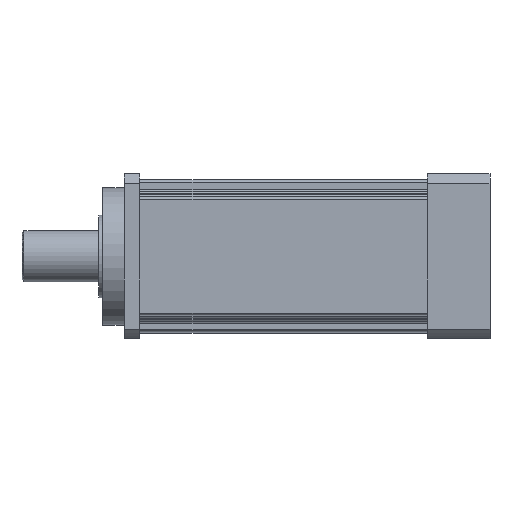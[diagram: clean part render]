
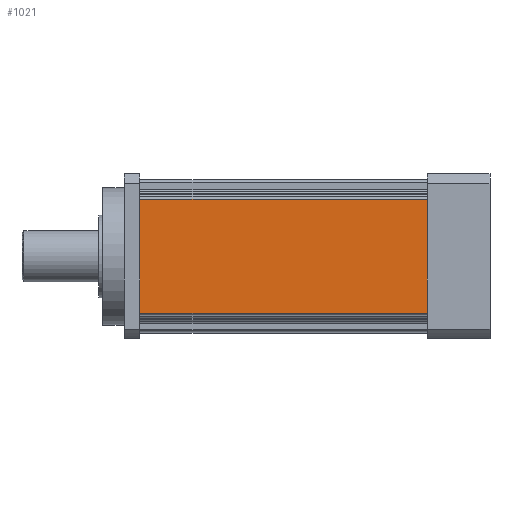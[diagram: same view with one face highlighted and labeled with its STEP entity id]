
A CAD part, left-side view. The second image highlights one B-rep face of the part: STEP entity #1021.
In plain terms, the highlighted planar face has unit normal (-1, 0, 0).
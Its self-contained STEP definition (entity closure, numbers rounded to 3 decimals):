
#872 = EDGE_CURVE ( 'NONE', #4538, #6728, #19448, .T. ) ;
#1021 = ADVANCED_FACE ( 'NONE', ( #12493 ), #18200, .F. ) ;
#2905 = LINE ( 'NONE', #16400, #21190 ) ;
#3799 = LINE ( 'NONE', #15146, #9985 ) ;
#4074 = ORIENTED_EDGE ( 'NONE', *, *, #872, .F. ) ;
#4287 = VECTOR ( 'NONE', #7844, 1000. ) ;
#4538 = VERTEX_POINT ( 'NONE', #17317 ) ;
#4695 = CARTESIAN_POINT ( 'NONE',  ( -83.365, 63.871, -14.5 ) ) ;
#5209 = DIRECTION ( 'NONE',  ( 0., 0., -1. ) ) ;
#5758 = CARTESIAN_POINT ( 'NONE',  ( -83.365, 63.871, 0. ) ) ;
#6566 = EDGE_CURVE ( 'NONE', #13915, #6728, #6987, .T. ) ;
#6728 = VERTEX_POINT ( 'NONE', #15299 ) ;
#6987 = LINE ( 'NONE', #5758, #14443 ) ;
#7844 = DIRECTION ( 'NONE',  ( 0., 1., 0. ) ) ;
#8728 = DIRECTION ( 'NONE',  ( 0., 0., -1. ) ) ;
#9985 = VECTOR ( 'NONE', #14926, 1000. ) ;
#10509 = CARTESIAN_POINT ( 'NONE',  ( -83.365, -9.129, 14.5 ) ) ;
#11003 = AXIS2_PLACEMENT_3D ( 'NONE', #13340, #19944, #5209 ) ;
#11977 = EDGE_CURVE ( 'NONE', #13915, #14997, #3799, .T. ) ;
#12493 = FACE_OUTER_BOUND ( 'NONE', #13076, .T. ) ;
#13076 = EDGE_LOOP ( 'NONE', ( #4074, #18705, #20743, #19778 ) ) ;
#13340 = CARTESIAN_POINT ( 'NONE',  ( -83.365, 63.871, -14.5 ) ) ;
#13764 = CARTESIAN_POINT ( 'NONE',  ( -83.365, 63.871, 14.5 ) ) ;
#13915 = VERTEX_POINT ( 'NONE', #13764 ) ;
#14443 = VECTOR ( 'NONE', #8728, 1000. ) ;
#14926 = DIRECTION ( 'NONE',  ( 0., -1., 0. ) ) ;
#14997 = VERTEX_POINT ( 'NONE', #10509 ) ;
#15146 = CARTESIAN_POINT ( 'NONE',  ( -83.365, 63.871, 14.5 ) ) ;
#15299 = CARTESIAN_POINT ( 'NONE',  ( -83.365, 63.871, -14.5 ) ) ;
#15406 = EDGE_CURVE ( 'NONE', #14997, #4538, #2905, .T. ) ;
#16400 = CARTESIAN_POINT ( 'NONE',  ( -83.365, -9.129, 0. ) ) ;
#17317 = CARTESIAN_POINT ( 'NONE',  ( -83.365, -9.129, -14.5 ) ) ;
#18079 = DIRECTION ( 'NONE',  ( 0., 0., -1. ) ) ;
#18200 = PLANE ( 'NONE',  #11003 ) ;
#18705 = ORIENTED_EDGE ( 'NONE', *, *, #15406, .F. ) ;
#19448 = LINE ( 'NONE', #4695, #4287 ) ;
#19778 = ORIENTED_EDGE ( 'NONE', *, *, #6566, .T. ) ;
#19944 = DIRECTION ( 'NONE',  ( 1., 0., 0. ) ) ;
#20743 = ORIENTED_EDGE ( 'NONE', *, *, #11977, .F. ) ;
#21190 = VECTOR ( 'NONE', #18079, 1000. ) ;
